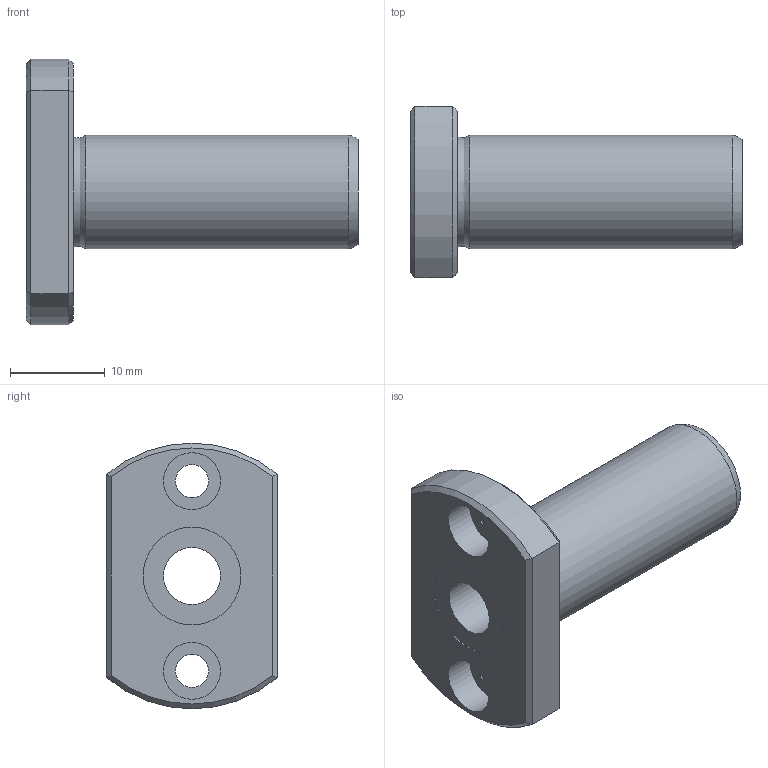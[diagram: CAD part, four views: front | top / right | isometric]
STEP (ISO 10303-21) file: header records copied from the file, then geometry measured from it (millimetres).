
FILE_DESCRIPTION((''),'2;1');
FILE_NAME('D:\製品 (図面)\カタログ用3D\リニアベアリング関連\STEP形式\LFDT\LFDT6.stp','2010-06-03T09:43:17',('Tsuchiya'),(''),'Autodesk Inventor 10','Autodesk Inventor 10','');
FILE_SCHEMA(('AUTOMOTIVE_DESIGN { 1 0 10303 214 1 1 1 1 }'));
Length unit declared in the file: millimetre
Products named in the file (1): LFDT6
Bounding box: 35 x 18 x 28 mm (x, y, z)
Volume: 4472.4 mm3; surface area: 3148.4 mm2
Topology: 1 solids, 1 shells, 29 faces, 56 edges, 34 vertices
Faces by surface type: plane 13, cylinder 10, cone 4, bspline 2
Full cylindrical faces by diameter (mm): 3.5 x2, 6 x3, 10.3 x2, 12 x1
Entity records: 809 total; most frequent: CARTESIAN_POINT 222, DIRECTION 120, ORIENTED_EDGE 92, AXIS2_PLACEMENT_3D 54, EDGE_LOOP 50, EDGE_CURVE 46, VERTEX_POINT 34, FACE_OUTER_BOUND 29
